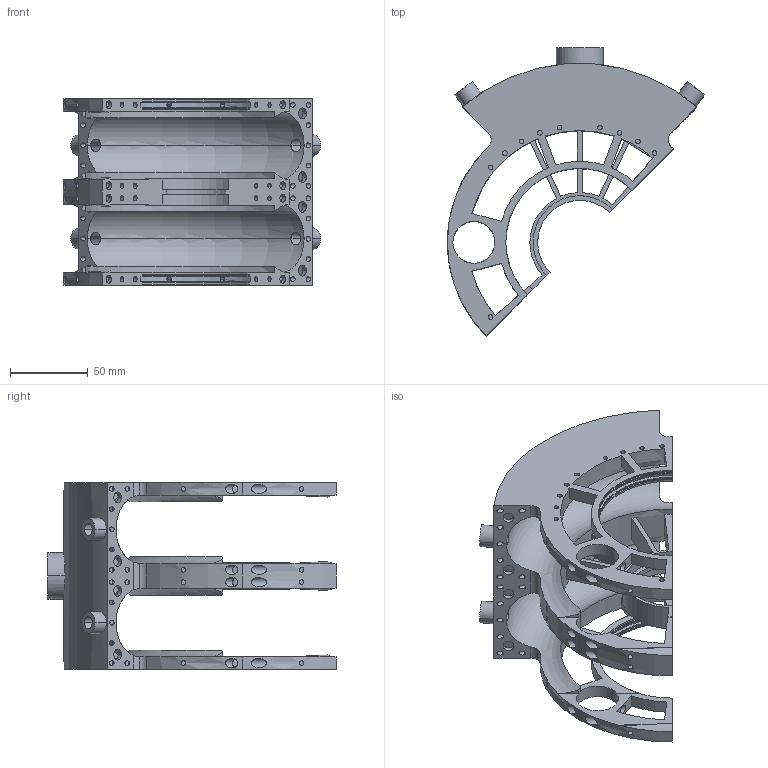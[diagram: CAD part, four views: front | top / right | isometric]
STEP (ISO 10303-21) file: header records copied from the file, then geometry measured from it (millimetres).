
FILE_DESCRIPTION(('STEP AP214'),'1');
FILE_NAME('C:/Users/mashimo/Documents/円弧動エンジン/ボア4.4ｃｍ/TurboCAD/3D/tmp0.STEP','2024-01-08T01:09:49',(' '),(' '),'Spatial InterOp 3D',' ',' ');
FILE_SCHEMA(('automotive_design'));
Length unit declared in the file: millimetre
Products named in the file (1): 1
Bounding box: 165.22 x 185.1 x 120 mm (x, y, z)
Volume: 306105.5 mm3; surface area: 207366.5 mm2
Topology: 1 solids, 1 shells, 724 faces, 2116 edges, 1420 vertices
Faces by surface type: cylinder 441, plane 247, torus 36
Entity records: 35130 total; most frequent: CARTESIAN_POINT 9055, DIRECTION 4448, ORIENTED_EDGE 4232, EDGE_CURVE 2116, AXIS2_PLACEMENT_3D 1793, VERTEX_POINT 1420, EDGE_LOOP 910, LINE 862
